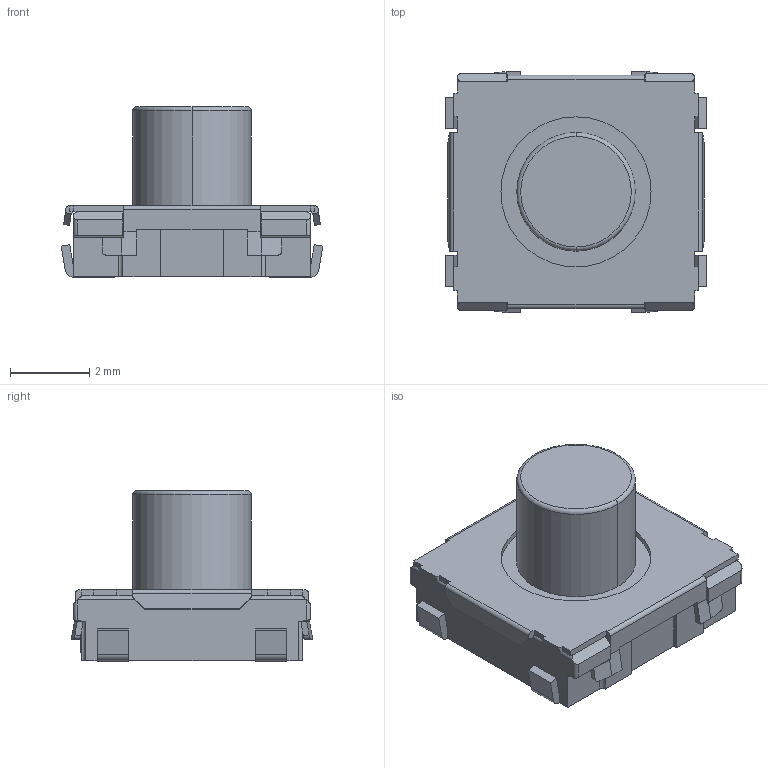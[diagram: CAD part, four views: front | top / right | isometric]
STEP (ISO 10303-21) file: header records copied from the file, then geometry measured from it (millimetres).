
FILE_DESCRIPTION (( 'STEP AP214' ), '1' );
FILE_NAME ('SW-SMD_4P-L6.5-W6.0-P4.00-LS6.6-TL.STEP', '2022-10-11T13:42:02', ( '' ), ( '' ), 'SwSTEP 2.0', 'SolidWorks 2020', '' );
FILE_SCHEMA (( 'AUTOMOTIVE_DESIGN' ));
Length unit declared in the file: millimetre
Products named in the file (1): SW-SMD_4P-L6.5-W6.0-P4.00-LS6.6-TL
Bounding box: 6.62 x 6.1 x 4.31 mm (x, y, z)
Volume: 78.1 mm3; surface area: 166.4 mm2
Topology: 1 solids, 1 shells, 456 faces, 1271 edges, 836 vertices
Faces by surface type: plane 307, bspline 114, cylinder 31, cone 2, torus 2
Entity records: 17936 total; most frequent: CARTESIAN_POINT 4485, ORIENTED_EDGE 2542, DIRECTION 1711, EDGE_CURVE 1271, VECTOR 917, LINE 917, VERTEX_POINT 836, EDGE_LOOP 481
